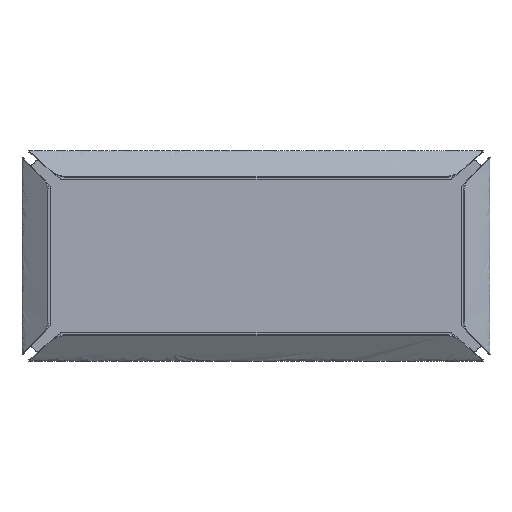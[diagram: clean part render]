
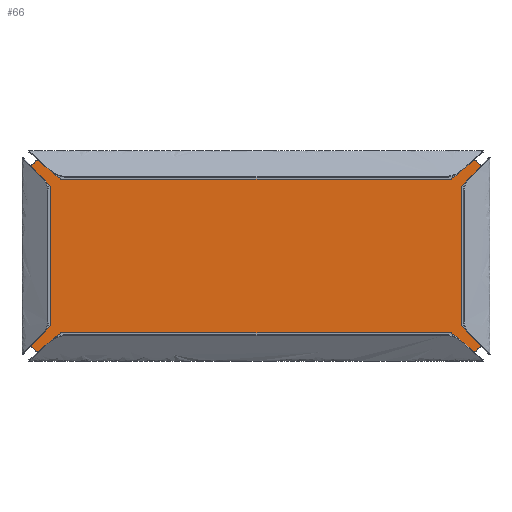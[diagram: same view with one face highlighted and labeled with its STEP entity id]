
A CAD part, top view. The second image highlights one B-rep face of the part: STEP entity #66.
In plain terms, the highlighted planar face has unit normal (0, 0, 1).
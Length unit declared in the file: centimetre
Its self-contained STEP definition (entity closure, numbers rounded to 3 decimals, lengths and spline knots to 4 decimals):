
#20=PLANE($,#1519);
#66=ADVANCED_FACE($,(#154),#20,.T.);
#154=FACE_OUTER_BOUND($,#242,.T.);
#242=EDGE_LOOP($,(#410,#411));
#410=ORIENTED_EDGE($,*,*,#808,.T.);
#411=ORIENTED_EDGE($,*,*,#811,.T.);
#808=EDGE_CURVE($,#1015,#1017,#1217,.T.);
#811=EDGE_CURVE($,#1017,#1015,#1219,.T.);
#1015=VERTEX_POINT($,#2141);
#1017=VERTEX_POINT($,#2143);
#1217=(
BOUNDED_CURVE()
B_SPLINE_CURVE(2,(#2017,#2018,#2019,#2020,#2021,#2022,#2023,#2024,#2025,
#2026,#2027,#2028,#2029,#2030,#2031,#2032,#2033),.UNSPECIFIED.,.F.,.F.)
B_SPLINE_CURVE_WITH_KNOTS((3,2,2,2,2,2,2,2,3),(78.3615,266.3816,
266.6757,269.1425,269.4367,347.4567,347.7508,
350.2177,350.5118),.UNSPECIFIED.)
CURVE()
GEOMETRIC_REPRESENTATION_ITEM()
RATIONAL_B_SPLINE_CURVE((1.,1.,1.,0.742,1.,0.774,
1.,0.742,1.,1.,1.,0.742,1.,0.774,1.,
0.742,1.))
REPRESENTATION_ITEM($)
);
#1219=(
BOUNDED_CURVE()
B_SPLINE_CURVE(2,(#2053,#2054,#2055,#2056,#2057,#2058,#2059,#2060,#2061,
#2062,#2063,#2064,#2065,#2066,#2067,#2068,#2069),.UNSPECIFIED.,.F.,.F.)
B_SPLINE_CURVE_WITH_KNOTS((3,2,2,2,2,2,2,2,3),(350.5118,538.5318,
538.826,541.2928,541.5869,619.607,619.9011,
622.3679,622.6621),.UNSPECIFIED.)
CURVE()
GEOMETRIC_REPRESENTATION_ITEM()
RATIONAL_B_SPLINE_CURVE((1.,1.,1.,0.742,1.,0.774,
1.,0.742,1.,1.,1.,0.742,1.,0.774,1.,
0.742,1.))
REPRESENTATION_ITEM($)
);
#1519=AXIS2_PLACEMENT_3D($,#2105,#1536,$);
#1536=DIRECTION($,(0.,0.,1.));
#2017=CARTESIAN_POINT($,(190.01,82.,0.5));
#2018=CARTESIAN_POINT($,(96.,82.,0.5));
#2019=CARTESIAN_POINT($,(1.99,82.,0.5));
#2020=CARTESIAN_POINT($,(1.8091,82.,0.5));
#2021=CARTESIAN_POINT($,(1.791,81.82,0.5));
#2022=CARTESIAN_POINT($,(1.6439,80.3561,0.5));
#2023=CARTESIAN_POINT($,(0.18,80.209,0.5));
#2024=CARTESIAN_POINT($,(0.,80.1909,0.5));
#2025=CARTESIAN_POINT($,(0.,80.01,0.5));
#2026=CARTESIAN_POINT($,(0.,41.,0.5));
#2027=CARTESIAN_POINT($,(0.,1.99,0.5));
#2028=CARTESIAN_POINT($,(0.,1.8091,0.5));
#2029=CARTESIAN_POINT($,(0.18,1.791,0.5));
#2030=CARTESIAN_POINT($,(1.6439,1.6439,0.5));
#2031=CARTESIAN_POINT($,(1.791,0.18,0.5));
#2032=CARTESIAN_POINT($,(1.8091,0.,0.5));
#2033=CARTESIAN_POINT($,(1.99,0.,0.5));
#2053=CARTESIAN_POINT($,(1.99,0.,0.5));
#2054=CARTESIAN_POINT($,(96.,0.,0.5));
#2055=CARTESIAN_POINT($,(190.01,0.,0.5));
#2056=CARTESIAN_POINT($,(190.1909,0.,0.5));
#2057=CARTESIAN_POINT($,(190.209,0.18,0.5));
#2058=CARTESIAN_POINT($,(190.3561,1.6439,0.5));
#2059=CARTESIAN_POINT($,(191.82,1.791,0.5));
#2060=CARTESIAN_POINT($,(192.,1.8091,0.5));
#2061=CARTESIAN_POINT($,(192.,1.99,0.5));
#2062=CARTESIAN_POINT($,(192.,41.,0.5));
#2063=CARTESIAN_POINT($,(192.,80.01,0.5));
#2064=CARTESIAN_POINT($,(192.,80.1909,0.5));
#2065=CARTESIAN_POINT($,(191.82,80.209,0.5));
#2066=CARTESIAN_POINT($,(190.3561,80.3561,0.5));
#2067=CARTESIAN_POINT($,(190.209,81.82,0.5));
#2068=CARTESIAN_POINT($,(190.1909,82.,0.5));
#2069=CARTESIAN_POINT($,(190.01,82.,0.5));
#2105=CARTESIAN_POINT($,(0.,0.,0.5));
#2141=CARTESIAN_POINT($,(190.01,82.,0.5));
#2143=CARTESIAN_POINT($,(1.99,0.,0.5));
